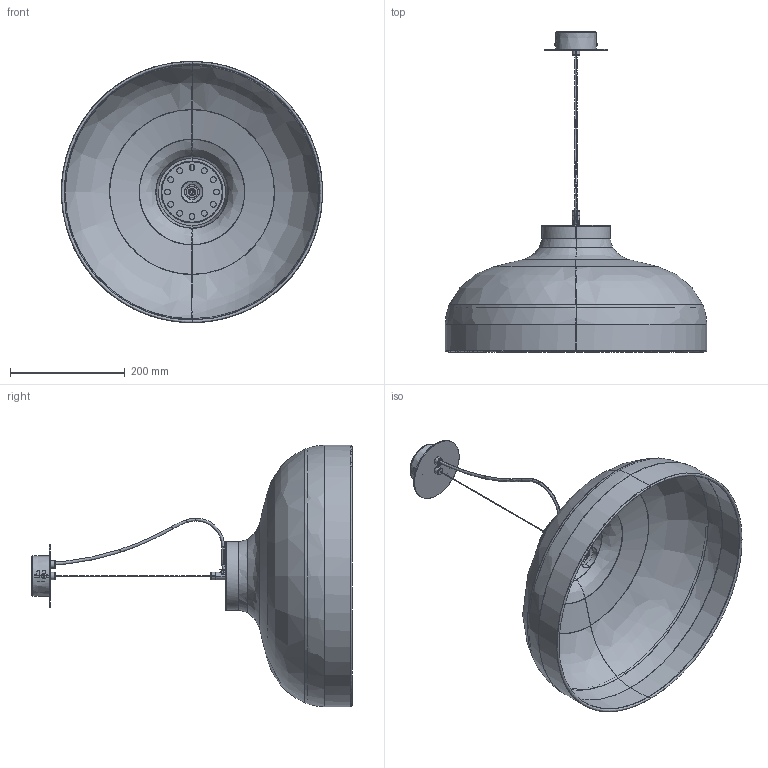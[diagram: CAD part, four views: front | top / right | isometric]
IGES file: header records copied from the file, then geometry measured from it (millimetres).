
Start section: SolidWorks IGES file using analytic representation for surfaces
Global section: file name: C:\Users\Claudiar\Desktop\Nueva carpeta (2)\C-15-5243.IGS; native system: SolidWorks 2013; preprocessor: SolidWorks 2013; author: ClaudiaR; date: 150506.130938; units: millimetre
Bounding box: 455 x 557.06 x 455 mm (x, y, z)
Surface area: 698798 mm2
Topology: 1 solids, 1 shells, 176 faces, 3405 edges, 3881 vertices
Faces by surface type: revolution 99, bspline 75, plane 2
